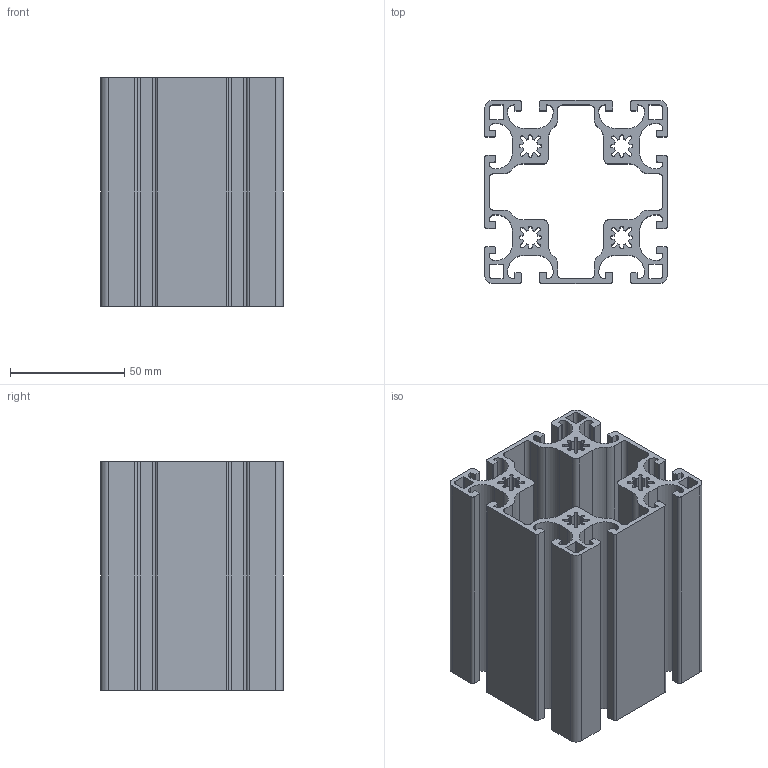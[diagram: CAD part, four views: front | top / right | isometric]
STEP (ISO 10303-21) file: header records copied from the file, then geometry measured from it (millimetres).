
FILE_DESCRIPTION (( 'STEP AP203' ), '1' );
FILE_NAME ('180PR80.STEP', '2018-07-11T09:11:24', ( '' ), ( '' ), 'SwSTEP 2.0', 'SolidWorks 2014', '' );
FILE_SCHEMA (( 'CONFIG_CONTROL_DESIGN' ));
Length unit declared in the file: millimetre
Products named in the file (1): 180PR80
Bounding box: 80 x 80 x 100 mm (x, y, z)
Volume: 177888.6 mm3; surface area: 131377.1 mm2
Topology: 1 solids, 1 shells, 422 faces, 1260 edges, 840 vertices
Faces by surface type: plane 218, cylinder 204
Entity records: 14405 total; most frequent: CARTESIAN_POINT 2523, ORIENTED_EDGE 2520, DIRECTION 2514, EDGE_CURVE 1260, LINE 852, VECTOR 852, VERTEX_POINT 840, AXIS2_PLACEMENT_3D 831
